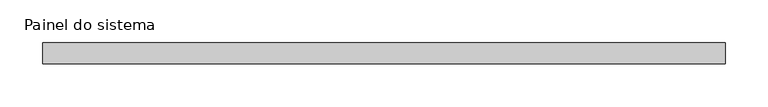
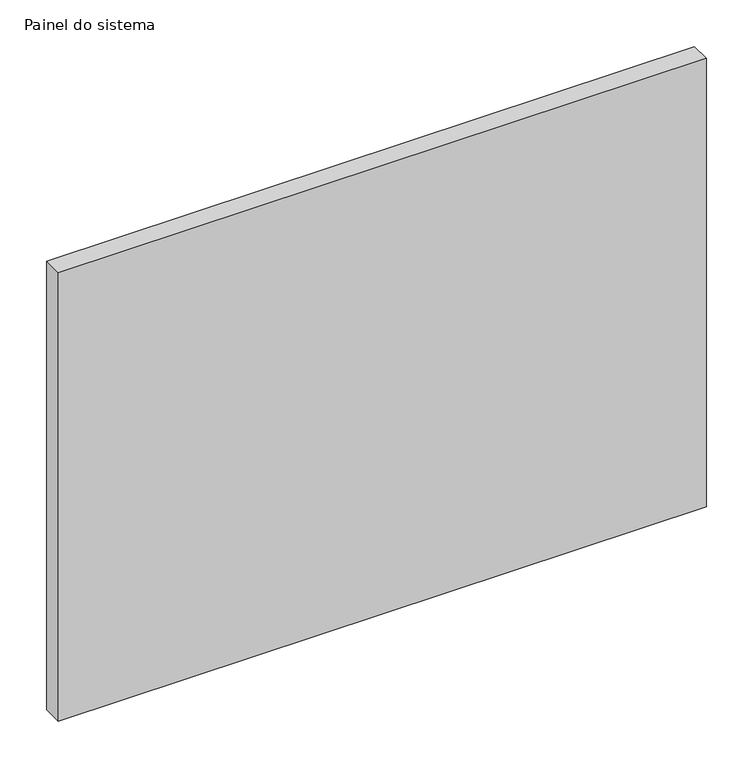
"""IFC4 building model written with IfcOpenShell, lengths in millimetres: plate geometry, Painel do sistema : Envidraçado."""

from ifc_helpers import new_model, si_unit, origin, origin_with_axes, place, context, project, spatial, polyline, outline, extrude, source, transform, mapped, element, save


def painel_do_sistema_c843276f(model_context):
    return source(origin(), model_context, "Body", "SweptSolid", [
        extrude(outline(polyline([(400.0, 24.5), (-400.0, 24.5), (-400.0, 49.5), (400.0, 49.5), (400.0, 24.5)])), origin_with_axes(), (0.0, 0.0, 1.0), 585.0),
    ])


if __name__ == "__main__":
    model = new_model("IFC4")
    model_context = context("Model", 3, world=origin())
    ifc_project = project(units=[si_unit("LENGTHUNIT", "METRE", prefix="MILLI")], contexts=[model_context])
    site = spatial("IfcSite", under=ifc_project)
    building = spatial("IfcBuilding", under=site)
    placement = place(None, origin())
    painel_do_sistema_shape = painel_do_sistema_c843276f(model_context)
    element("IfcPlate", 1, ObjectType="Painel do sistema : Envidraçado", at=placement, inside=building, context=model_context, shape_type="MappedRepresentation", body=[
        mapped(painel_do_sistema_shape, transform((0.0, 0.0, 0.0), x_axis=(1.0, 0.0, 0.0), y_axis=(0.0, 1.0, 0.0), z_axis=(0.0, 0.0, 1.0))),
    ])
    save(model, "model.ifc")
